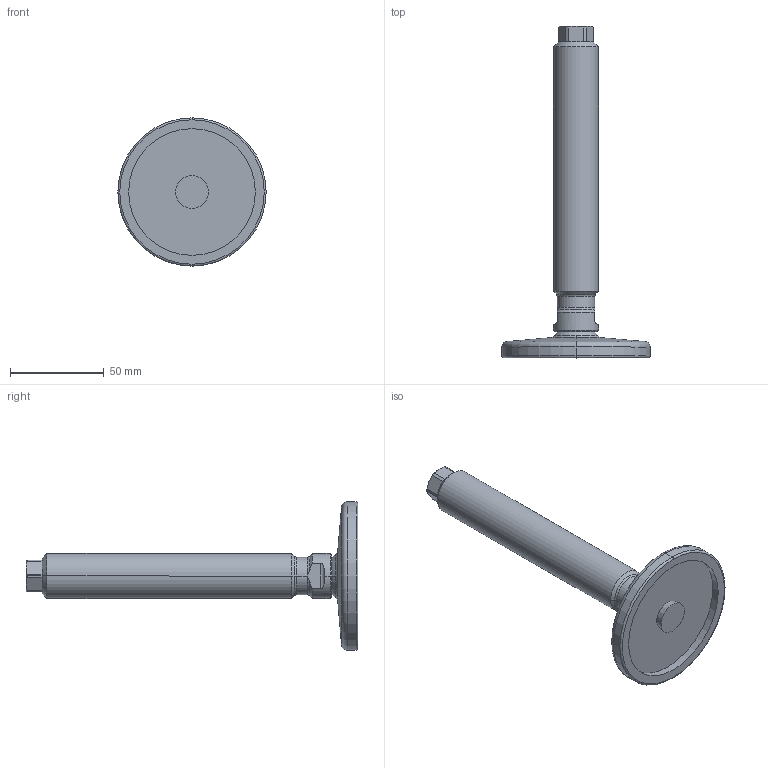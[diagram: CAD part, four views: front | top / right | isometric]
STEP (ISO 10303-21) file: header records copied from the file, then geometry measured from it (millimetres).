
FILE_DESCRIPTION (( 'STEP AP214' ), '1' );
FILE_NAME ('21-80-M24-150-D0-V.step', '2020-10-02T17:35:57', ( '' ), ( '' ), 'SwSTEP 2.0', 'SolidWorks 2019', '' );
FILE_SCHEMA (( 'AUTOMOTIVE_DESIGN' ));
Length unit declared in the file: millimetre
Products named in the file (3): 21-80-M24-150-D0-V; WB21_Fußteller 21^WB21_V_D0-080-R14-B9 (M24); WB21_Spindel_V^WB21_V_M24-150
Assembly tree (2 placements, depth 2):
  21-80-M24-150-D0-V
    WB21_Fußteller 21^WB21_V_D0-080-R14-B9 (M24)
    WB21_Spindel_V^WB21_V_M24-150
Bounding box: 79 x 176.9 x 79 mm (x, y, z)
Volume: 102635 mm3; surface area: 26085.4 mm2
Topology: 2 solids, 2 shells, 79 faces, 177 edges, 105 vertices
Faces by surface type: cylinder 23, cone 21, plane 21, torus 10, sphere 4
Entity records: 2446 total; most frequent: CARTESIAN_POINT 530, DIRECTION 406, ORIENTED_EDGE 354, EDGE_CURVE 177, AXIS2_PLACEMENT_3D 173, VERTEX_POINT 105, CIRCLE 89, EDGE_LOOP 82
